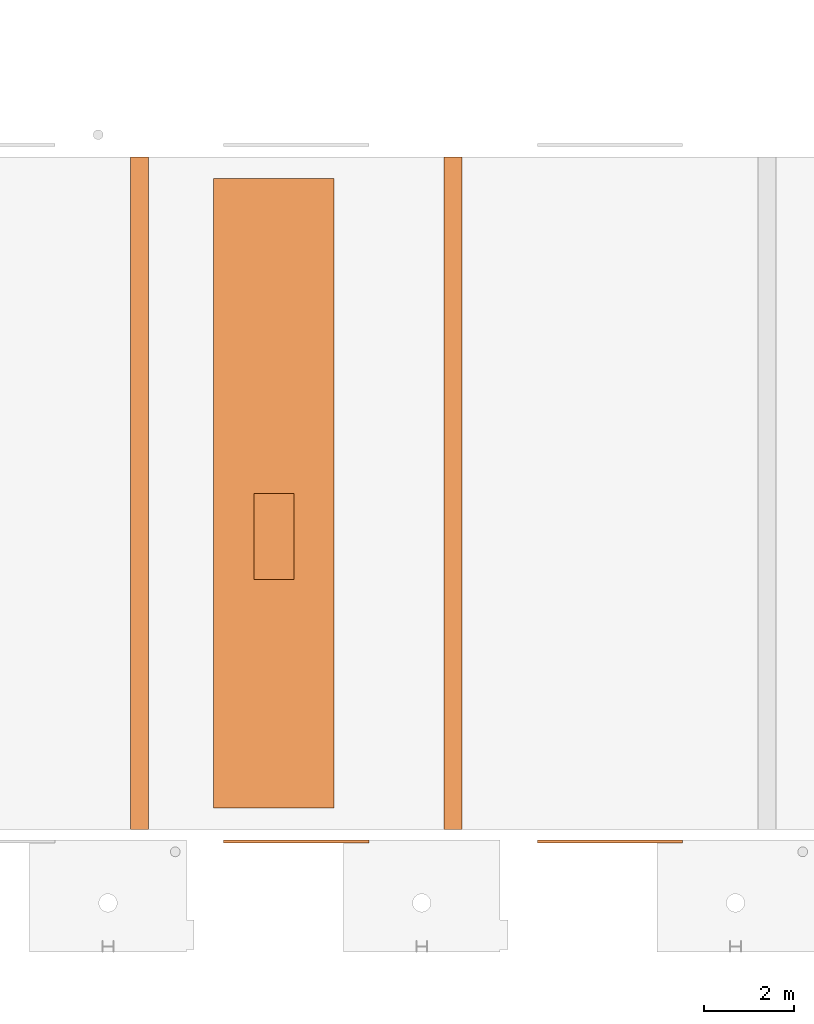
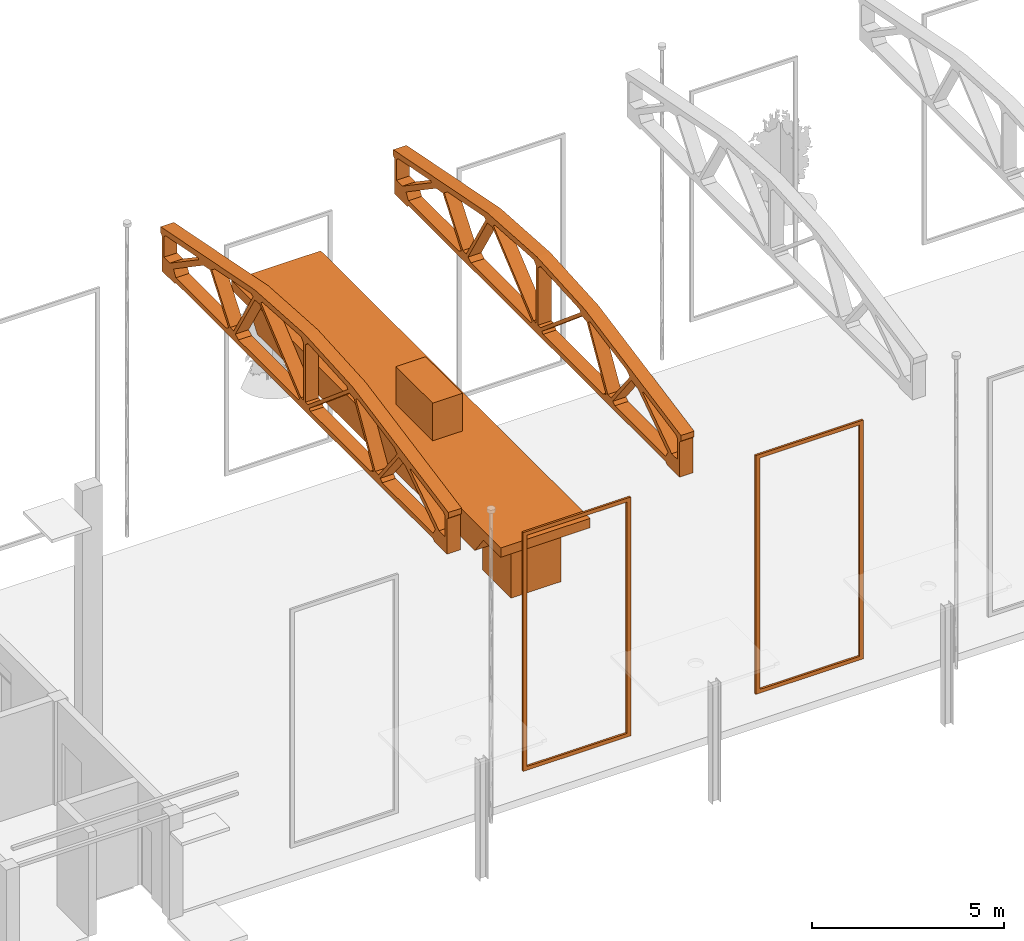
# One storey, part 8 of 14: 5 proxies.
"""IFC2X3 building model written with IfcOpenShell, lengths in millimetres."""

from ifc_helpers import new_model, entity, si_unit, converted_unit, derived_unit, direction, frame, frame_2d, origin, origin_2d_with_axis, place, context, subcontext, project, spatial, polyline, rectangle, outline, extrude, source, transform, mapped, material, type_object, type_shapes, element, save


model = new_model("IFC2X3")

# Units and contexts
model_context = context("Model", 3, precision=0.01, world=origin(), true_north=direction((6.12303176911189e-17, 1.0)))
body_context = subcontext(model_context, "Body", "Model", "MODEL_VIEW")
ifc_project = project(units=[si_unit("LENGTHUNIT", "METRE", prefix="MILLI"), si_unit("AREAUNIT", "SQUARE_METRE"), si_unit("VOLUMEUNIT", "CUBIC_METRE"), converted_unit("PLANEANGLEUNIT", "DEGREE", entity("IfcRatioMeasure", 0.0174532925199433), si_unit("PLANEANGLEUNIT", "RADIAN"), dimensions=[0, 0, 0, 0, 0, 0, 0]), si_unit("MASSUNIT", "GRAM", prefix="KILO"), derived_unit("MASSDENSITYUNIT", [(si_unit("MASSUNIT", "GRAM", prefix="KILO"), 1), (si_unit("LENGTHUNIT", "METRE"), -3)]), si_unit("TIMEUNIT", "SECOND"), si_unit("FREQUENCYUNIT", "HERTZ"), si_unit("THERMODYNAMICTEMPERATUREUNIT", "DEGREE_CELSIUS"), derived_unit("THERMALTRANSMITTANCEUNIT", [(si_unit("MASSUNIT", "GRAM", prefix="KILO"), 1), (si_unit("THERMODYNAMICTEMPERATUREUNIT", "KELVIN"), -1), (si_unit("TIMEUNIT", "SECOND"), -3)]), derived_unit("VOLUMETRICFLOWRATEUNIT", [(si_unit("LENGTHUNIT", "METRE"), 3), (si_unit("TIMEUNIT", "SECOND"), -1)]), si_unit("ELECTRICCURRENTUNIT", "AMPERE"), si_unit("ELECTRICVOLTAGEUNIT", "VOLT"), si_unit("POWERUNIT", "WATT"), si_unit("FORCEUNIT", "NEWTON", prefix="KILO"), si_unit("ILLUMINANCEUNIT", "LUX"), si_unit("LUMINOUSFLUXUNIT", "LUMEN"), si_unit("LUMINOUSINTENSITYUNIT", "CANDELA"), derived_unit("USERDEFINED", [(si_unit("MASSUNIT", "GRAM", prefix="KILO"), -1), (si_unit("LENGTHUNIT", "METRE"), -2), (si_unit("TIMEUNIT", "SECOND"), 3), (si_unit("LUMINOUSFLUXUNIT", "LUMEN"), 1)]), derived_unit("LINEARVELOCITYUNIT", [(si_unit("LENGTHUNIT", "METRE"), 1), (si_unit("TIMEUNIT", "SECOND"), -1)]), si_unit("PRESSUREUNIT", "PASCAL"), derived_unit("USERDEFINED", [(si_unit("LENGTHUNIT", "METRE"), -2), (si_unit("MASSUNIT", "GRAM", prefix="KILO"), 1), (si_unit("TIMEUNIT", "SECOND"), -2)])], contexts=[model_context])

# Site, building, storey
site_placement = place(None, origin())
site = spatial("IfcSite", under=ifc_project, at=site_placement, Name="表面", CompositionType="ELEMENT")
building_placement = place(site_placement, origin())
building = spatial("IfcBuilding", under=site, at=building_placement, CompositionType="ELEMENT")
storey_placement = place(building_placement, origin())
storey = spatial("IfcBuildingStorey", under=building, at=storey_placement, Name="±0.000", CompositionType="ELEMENT", Elevation=0.0)

# Proxies
ifc_material_1 = material(Name="钢架")
building_element_proxy_type_1 = type_object("IfcBuildingElementProxyType", Name="钢架", PredefinedType="NOTDEFINED", material=ifc_material_1)
shared_shape_1 = source(origin(), body_context, "Body", "SweptSolid", [
    extrude(outline(polyline([(5365.60494768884, -5157.24800747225), (5456.9902216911, -5157.24800747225), (5582.8288750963, -5031.40935406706), (2734.74006467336, -808.944048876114), (1081.02925071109, 1073.38849692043), (-860.892399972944, 2779.45092503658), (-5023.76860027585, 5575.18812130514), (-5150.98625221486, 5447.97046936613), (-5149.60725368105, 5357.96419389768), (-5944.34309586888, 4563.22835170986), (-5473.86453543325, 4092.74979127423), (-5388.04612413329, 4092.74979127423), (4099.05525115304, -5394.35158401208), (4100.39054506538, -5481.50528922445), (4570.86910550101, -5951.98384966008), (5365.60494768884, -5157.24800747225)]), holes=[polyline([(2080.17644422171, -3019.41582292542), (1903.3815773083, -2969.47962047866), (-312.516618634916, -753.581424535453), (-307.696571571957, -667.767979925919), (2405.15225183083, -902.84956055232), (2566.25060345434, -1105.85622888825), (2080.17644422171, -3019.41582292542)]), polyline([(2410.67898297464, -804.454704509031), (-302.169840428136, -569.37312388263), (-396.501496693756, -475.041467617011), (895.303368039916, 816.763397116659), (1071.52445367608, 814.063489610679), (2415.65365014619, -715.888489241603), (2410.67898297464, -804.454704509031)]), polyline([(824.404150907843, 887.662614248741), (-467.400713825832, -404.142250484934), (-561.732370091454, -309.810594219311), (-796.813950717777, 2403.03822918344), (-708.247735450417, 2408.01289635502), (821.704243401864, 1063.8836998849), (824.404150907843, 887.662614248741)]), polyline([(-660.127226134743, -315.337325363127), (-745.940670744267, -320.157372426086), (-2961.8388666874, 1895.74082351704), (-3011.7750691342, 2072.53569043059), (-1098.215475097, 2558.60984966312), (-895.208806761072, 2397.5114980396), (-660.127226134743, -315.337325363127)]), polyline([(-1125.26669554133, 2654.38238910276), (-3038.8262895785, 2168.30822987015), (-3165.92863425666, 2295.41057454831), (-2966.18860298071, 3866.5253133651), (-2759.14425623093, 3833.98711637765), (-1152.70066928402, 2751.5100339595), (-1125.26669554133, 2654.38238910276)]), polyline([(5310.14502256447, -4946.12903504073), (5311.96128515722, -5064.67523160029), (4848.72490296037, -5527.91161379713), (4627.03739614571, -5306.22410698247), (4284.43096880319, -3510.00639039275), (4336.75773352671, -3501.57949816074), (5310.14502256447, -4946.12903504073)]), polyline([(4444.43004158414, -5222.45135972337), (4211.00422062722, -5277.1022637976), (2339.5189258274, -3405.61696899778), (2318.4499702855, -3271.55274477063), (3889.56470910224, -3071.8127134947), (4090.0993156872, -3364.76546537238), (4444.43004158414, -5222.45135972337)]), polyline([(3874.16606715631, -2973.82935677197), (2303.05132833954, -3173.5693880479), (2175.94898366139, -3046.46704336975), (2662.02314289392, -1132.90744933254), (2758.82600220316, -1160.24968649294), (3841.37881299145, -2765.20023012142), (3874.16606715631, -2973.82935677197)]), polyline([(-3263.91199097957, 2310.80921649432), (-3397.97621520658, 2331.87817203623), (-5269.4615100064, 4203.36346683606), (-5214.8106059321, 4436.78928779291), (-3357.12471158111, 4082.45856189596), (-3064.17195970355, 3881.92395531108), (-3263.91199097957, 2310.80921649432)]), polyline([(-3502.36563660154, 4276.79021501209), (-5298.58335319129, 4619.39664235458), (-5520.27086000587, 4841.08414916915), (-5057.03447780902, 5304.32053136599), (-4938.48828124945, 5302.50426877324), (-3493.93874436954, 4329.11697973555), (-3502.36563660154, 4276.79021501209)])]), frame((414.00813522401, -400.0, 976.595601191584), z_axis=(0.0, 1.0, 0.0), x_axis=(-0.707106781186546, 0.0, 0.707106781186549)), (0.0, 0.0, 1.0), 400.0),
])
type_shapes(building_element_proxy_type_1, [shared_shape_1])
for number, where, z_axis, x_axis in (
    (1, (-25228.798781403, 7701.08910112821, 8500.0), (0.0, 0.0, 1.0), (0.0, 1.0, 0.0)),
    (2, (-18228.798781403, 7701.08910112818, 8500.0), (0.0, 0.0, 1.0), (0.0, 1.0, 0.0)),
):
    element("IfcBuildingElementProxy", number, at=place(storey_placement, frame(where, z_axis=z_axis, x_axis=x_axis)), inside=storey, type_object=building_element_proxy_type_1, material=ifc_material_1, Name="钢架:钢架", ObjectType="钢架", context=body_context, shape_type="MappedRepresentation", body=[
        mapped(shared_shape_1, transform((0.0, 0.0, 0.0), scale=1.0)),
    ])
ifc_material_2 = material(Name="吊车")
building_element_proxy_type_2 = type_object("IfcBuildingElementProxyType", Name="桥式吊车", PredefinedType="NOTDEFINED", material=ifc_material_2)
shared_shape_2 = source(origin(), body_context, "Body", "SweptSolid", [
    extrude(rectangle(XDim=1500.0, YDim=1500.0, at=frame_2d((-5.11590769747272e-13, 0.0), x_axis=(1.0, 0.0))), frame((494.0, -4920.0, 5000.0), z_axis=(0.0, 0.0, 1.0), x_axis=(0.0, 1.0, 0.0)), (0.0, 0.0, 1.0), 1899.99999999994),
    extrude(rectangle(XDim=896.0, YDim=1920.0, at=origin_2d_with_axis()), frame((0.0, -960.0, 7800.0), z_axis=(0.0, 0.0, 1.0), x_axis=(-1.0, 0.0, 0.0)), (0.0, 0.0, 1.0), 1200.0),
    extrude(outline(polyline([(-3732.0, -4851.0), (-2982.0, -4851.0), (3822.0, 4221.0), (3612.0, 4941.0), (4152.0, 5661.0), (3912.0, 5841.0), (-4512.0, -5391.0), (-4272.0, -5571.0), (-3732.0, -4851.0)])), frame((-1344.0, 0.0, 7425.0), z_axis=(1.0, 0.0, 0.0), x_axis=(0.0, 0.59999999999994, -0.800000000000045)), (0.0, 0.0, 1.0), 2688.0),
])
type_shapes(building_element_proxy_type_2, [shared_shape_2])
proxy_1_placement = place(storey_placement, frame((-22028.798781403, 8109.69740738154, 0.0)))
element("IfcBuildingElementProxy", 3, at=proxy_1_placement, inside=storey, type_object=building_element_proxy_type_2, material=ifc_material_2, Name="桥式吊车:桥式吊车", ObjectType="桥式吊车", context=body_context, shape_type="MappedRepresentation", body=[
    mapped(shared_shape_2, transform((0.0, 0.0, 0.0), scale=1.0)),
])
ifc_material_3 = material(Name="砖石建筑 - 瓷砖")
building_element_proxy_type_3 = type_object("IfcBuildingElementProxyType", Name="3mX7360", PredefinedType="NOTDEFINED", material=ifc_material_3)
shared_shape_3 = source(origin(), body_context, "Body", "SweptSolid", [
    extrude(outline(polyline([(-1620.0, -3800.0), (1620.0, -3800.0), (1620.0, 3800.0), (-1620.0, 3800.0), (-1620.0, -3800.0)]), holes=[polyline([(-1500.0, -3680.0), (-1500.0, 3680.0), (1500.0, 3680.0), (1500.0, -3680.0), (-1500.0, -3680.0)])]), frame((125.0, 120.0, 4159.66314124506), z_axis=(0.0, 1.0, 0.0), x_axis=(1.0, 0.0, 0.0)), (0.0, 0.0, 1.0), 60.0),
])
type_shapes(building_element_proxy_type_3, [shared_shape_3])
proxy_2_placement = place(storey_placement, frame((-14403.798781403, 489.697407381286, 720.336858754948), z_axis=(0.0, 0.0, 1.0), x_axis=(-1.0, 0.0, 0.0)))
element("IfcBuildingElementProxy", 4, at=proxy_2_placement, inside=storey, type_object=building_element_proxy_type_3, material=ifc_material_3, Name="基于墙的墙面装饰:3mX7360", ObjectType="3mX7360", context=body_context, shape_type="MappedRepresentation", body=[
    mapped(shared_shape_3, transform((0.0, 0.0, 0.0), scale=1.0)),
])
building_element_proxy_type_4 = type_object("IfcBuildingElementProxyType", Name="3mX7360", PredefinedType="NOTDEFINED", material=ifc_material_3)
shared_shape_4 = source(origin(), body_context, "Body", "SweptSolid", [
    extrude(outline(polyline([(-1620.0, -3800.0), (1620.0, -3800.0), (1620.0, 3800.0), (-1620.0, 3800.0), (-1620.0, -3800.0)]), holes=[polyline([(-1500.0, -3680.0), (-1500.0, 3680.0), (1500.0, 3680.0), (1500.0, -3680.0), (-1500.0, -3680.0)])]), frame((125.0, -180.0, 4159.66314124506), z_axis=(0.0, 1.0, 0.0), x_axis=(1.0, 0.0, 0.0)), (0.0, 0.0, 1.0), 60.0),
])
type_shapes(building_element_proxy_type_4, [shared_shape_4])
proxy_3_placement = place(storey_placement, frame((-21653.798781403, 489.697407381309, 720.336858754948)))
element("IfcBuildingElementProxy", 5, at=proxy_3_placement, inside=storey, type_object=building_element_proxy_type_4, material=ifc_material_3, Name="基于墙的墙面装饰:3mX7360", ObjectType="3mX7360", context=body_context, shape_type="MappedRepresentation", body=[
    mapped(shared_shape_4, transform((0.0, 0.0, 0.0), scale=1.0)),
])

save(model, "model.ifc")
